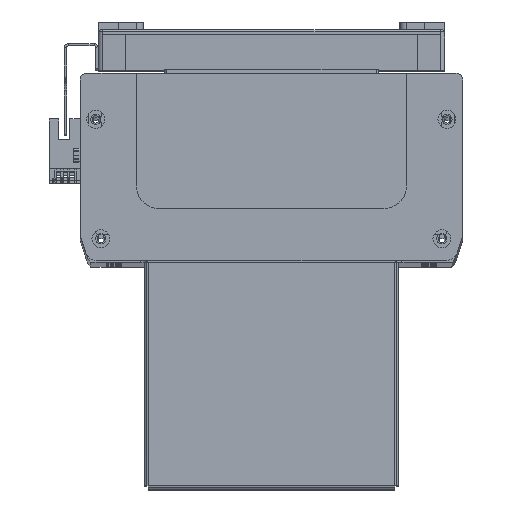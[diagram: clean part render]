
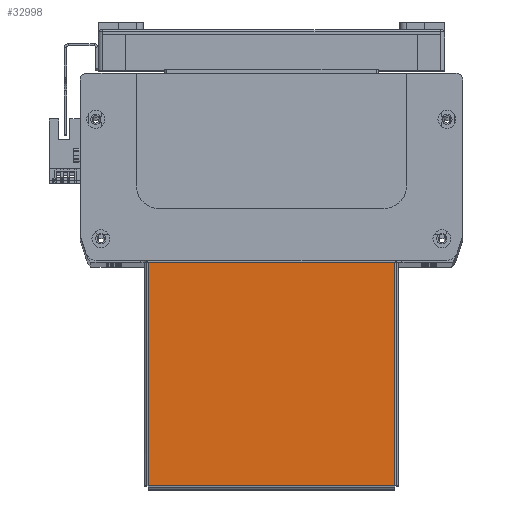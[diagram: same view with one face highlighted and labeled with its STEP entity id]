
A CAD part, top view. The second image highlights one B-rep face of the part: STEP entity #32998.
In plain terms, the highlighted planar face has unit normal (0, 0, 1).
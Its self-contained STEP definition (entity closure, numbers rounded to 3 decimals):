
#3113 = EDGE_CURVE ( 'NONE', #35640, #35579, #22866, .T. ) ;
#3142 = EDGE_CURVE ( 'NONE', #35579, #35674, #22986, .T. ) ;
#3175 = EDGE_CURVE ( 'NONE', #35674, #35609, #21715, .T. ) ;
#3192 = EDGE_CURVE ( 'NONE', #35609, #35640, #21774, .T. ) ;
#5627 = CARTESIAN_POINT ( 'NONE',  ( -54.763, 50., 0. ) ) ;
#5629 = DIRECTION ( 'NONE',  ( 0., -1., 0. ) ) ;
#8349 = DIRECTION ( 'NONE',  ( 1., 0., 0. ) ) ;
#8363 = CARTESIAN_POINT ( 'NONE',  ( -54.793, -49.263, 0. ) ) ;
#8418 = CARTESIAN_POINT ( 'NONE',  ( 54.763, -49.293, 0. ) ) ;
#8424 = DIRECTION ( 'NONE',  ( 0., 1., 0. ) ) ;
#8459 = CARTESIAN_POINT ( 'NONE',  ( -55.5, 50., 0. ) ) ;
#8517 = DIRECTION ( 'NONE',  ( -1., 0., 0. ) ) ;
#21715 = LINE ( 'NONE', #8459, #21771 ) ;
#21771 = VECTOR ( 'NONE', #8517, 1000. ) ;
#21774 = LINE ( 'NONE', #5627, #51276 ) ;
#22794 = VECTOR ( 'NONE', #8349, 1000. ) ;
#22866 = LINE ( 'NONE', #8363, #22794 ) ;
#22955 = VECTOR ( 'NONE', #8424, 1000. ) ;
#22986 = LINE ( 'NONE', #8418, #22955 ) ;
#24229 = ORIENTED_EDGE ( 'NONE', *, *, #3113, .T. ) ;
#24344 = ORIENTED_EDGE ( 'NONE', *, *, #3142, .T. ) ;
#24396 = ORIENTED_EDGE ( 'NONE', *, *, #3175, .T. ) ;
#24408 = ORIENTED_EDGE ( 'NONE', *, *, #3192, .T. ) ;
#30917 = CARTESIAN_POINT ( 'NONE',  ( 54.763, -49.263, 0. ) ) ;
#30950 = CARTESIAN_POINT ( 'NONE',  ( -54.763, 50., 0. ) ) ;
#31001 = CARTESIAN_POINT ( 'NONE',  ( -54.763, -49.263, 0. ) ) ;
#31017 = CARTESIAN_POINT ( 'NONE',  ( 54.763, 50., 0. ) ) ;
#32998 = ADVANCED_FACE ( 'NONE', ( #49878 ), #37334, .T. ) ;
#35579 = VERTEX_POINT ( 'NONE', #30917 ) ;
#35609 = VERTEX_POINT ( 'NONE', #30950 ) ;
#35640 = VERTEX_POINT ( 'NONE', #31001 ) ;
#35674 = VERTEX_POINT ( 'NONE', #31017 ) ;
#37334 = PLANE ( 'NONE',  #39684 ) ;
#37395 = DIRECTION ( 'NONE',  ( 0., 0., 1. ) ) ;
#37403 = DIRECTION ( 'NONE',  ( 1., 0., 0. ) ) ;
#37422 = CARTESIAN_POINT ( 'NONE',  ( 0., 0., 0. ) ) ;
#39684 = AXIS2_PLACEMENT_3D ( 'NONE', #37422, #37395, #37403 ) ;
#44427 = EDGE_LOOP ( 'NONE', ( #24408, #24229, #24344, #24396 ) ) ;
#49878 = FACE_OUTER_BOUND ( 'NONE', #44427, .T. ) ;
#51276 = VECTOR ( 'NONE', #5629, 1000. ) ;
